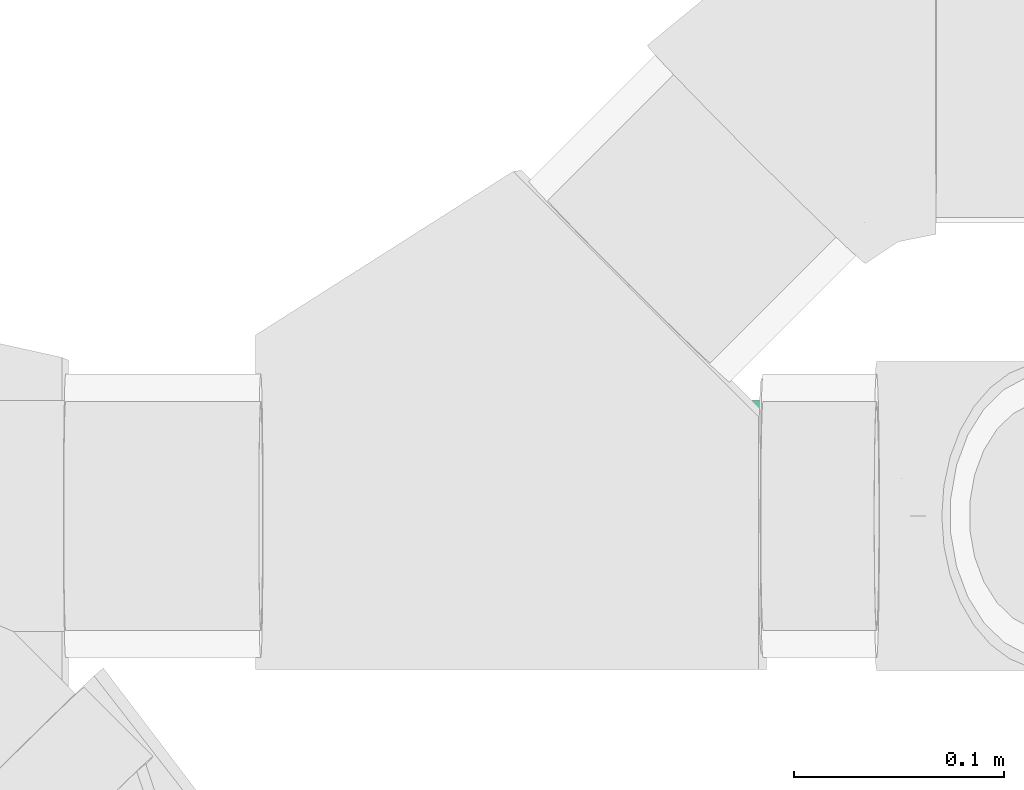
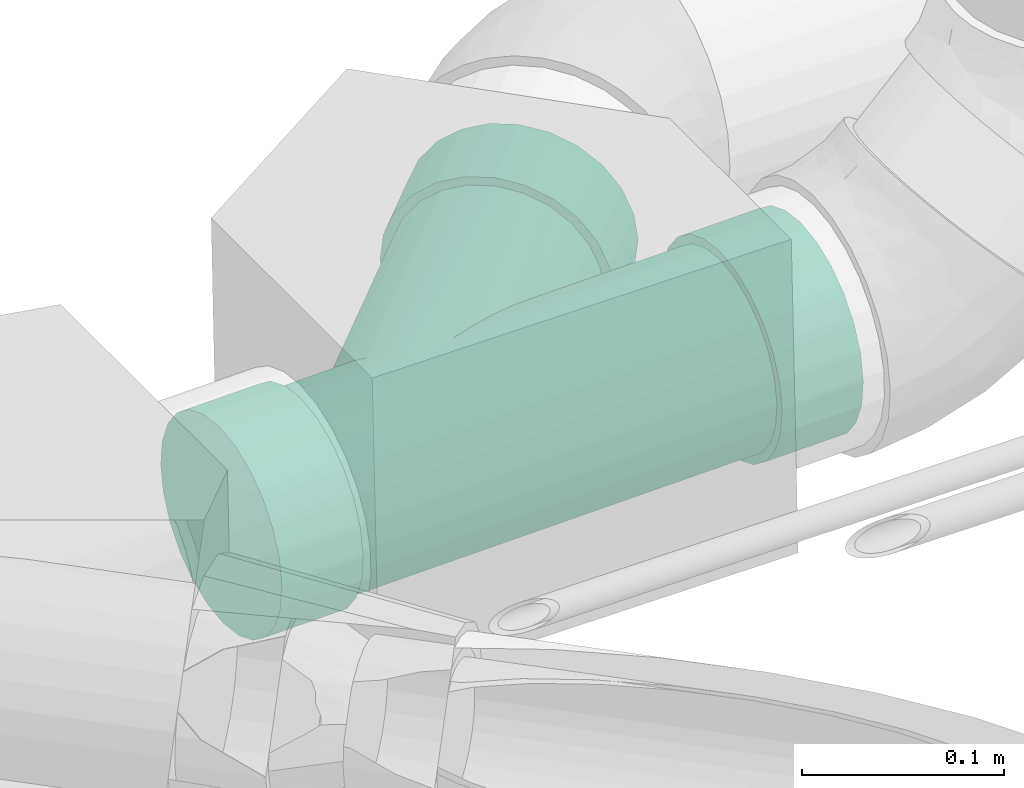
# One storey, part 128 of 156: 1 flow fitting.
"""IFC2X3 building model written with IfcOpenShell, lengths in millimetres."""

from ifc_helpers import new_model, entity, si_unit, converted_unit, derived_unit, direction, frame, origin_with_axes, place, context, subcontext, project, spatial, open_shell, surface_model, source, transform, mapped, type_object, element, save


model = new_model("IFC2X3")

# Units and contexts
model_context = context("Model", 3, precision=0.01, world=frame((0.0, 4.29681676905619e-09, 0.0)), true_north=direction((4.01073788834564e-13, 1.0)))
plan_context = context("Plan", 3, precision=0.01, world=frame((0.0, 4.29681676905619e-09, 0.0)), true_north=direction((4.01073788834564e-13, 1.0)))
body_context = subcontext(model_context, "Body", "Model", "MODEL_VIEW")
ifc_project = project(units=[converted_unit("PLANEANGLEUNIT", "DEGREE", entity("IfcPositiveLengthMeasure", 0.0174532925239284), si_unit("PLANEANGLEUNIT", "RADIAN"), dimensions=[0, 0, 0, 0, 0, 0, 0]), si_unit("AREAUNIT", "SQUARE_METRE"), si_unit("LENGTHUNIT", "METRE", prefix="MILLI"), si_unit("MASSUNIT", "GRAM", prefix="KILO"), si_unit("POWERUNIT", "WATT"), si_unit("PRESSUREUNIT", "PASCAL", prefix="KILO"), si_unit("FORCEUNIT", "NEWTON", prefix="KILO"), si_unit("ELECTRICVOLTAGEUNIT", "VOLT"), si_unit("ELECTRICCURRENTUNIT", "AMPERE"), si_unit("THERMODYNAMICTEMPERATUREUNIT", "DEGREE_CELSIUS"), si_unit("TIMEUNIT", "SECOND"), si_unit("VOLUMEUNIT", "CUBIC_METRE"), derived_unit("LINEARVELOCITYUNIT", [(si_unit("LENGTHUNIT", "METRE"), 1), (si_unit("TIMEUNIT", "SECOND"), -1)]), derived_unit("VOLUMETRICFLOWRATEUNIT", [(si_unit("VOLUMEUNIT", "CUBIC_METRE"), 1), (si_unit("TIMEUNIT", "SECOND"), -1)]), derived_unit("THERMALTRANSMITTANCEUNIT", [(si_unit("POWERUNIT", "WATT"), 1), (si_unit("THERMODYNAMICTEMPERATUREUNIT", "KELVIN"), -1), (si_unit("AREAUNIT", "SQUARE_METRE"), -1)]), derived_unit("SOUNDPRESSUREUNIT", [(si_unit("PRESSUREUNIT", "PASCAL"), 1)])], contexts=[model_context, plan_context])

# Site, building, storey
site_placement = place(None, frame((0.0, -4.29681676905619e-09, 0.0), z_axis=(0.0, 0.0, 1.0), x_axis=(1.0, 0.0, 0.0)))
site = spatial("IfcSite", under=ifc_project, at=site_placement, CompositionType="ELEMENT")
building_placement = place(site_placement, frame((0.0, 4.29681676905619e-09, 0.0), z_axis=(0.0, 0.0, 1.0), x_axis=(1.0, 0.0, 0.0)))
building = spatial("IfcBuilding", under=site, at=building_placement, Name="mc-building", CompositionType="ELEMENT")
storey_placement = place(building_placement, frame((0.0, 0.0, 205200.0), z_axis=(0.0, 0.0, 1.0), x_axis=(1.0, 0.0, 0.0)))
storey = spatial("IfcBuildingStorey", under=building, at=storey_placement, Name="Nivå D + 1,2 m", CompositionType="ELEMENT", Elevation=205200.0)

# Flow fitting
pipe_fitting_type = type_object("IfcPipeFittingType", Name="magi_sewer_tee_wye_NOR", PredefinedType="JUNCTION")
shared_shape = source(origin_with_axes(), body_context, "Body", "SurfaceModel", [
    surface_model("IfcShellBasedSurfaceModel", [(221.98725, 30.0, -51.96152), (221.98725, -42.42641, -42.42641), (221.98725, 15.52914, -57.95555), (221.98725, 51.96152, -30.0), (221.98725, 42.42641, -42.42641), (221.98725, 57.95555, -15.52914), (221.98725, 60.0, 0.0), (221.98725, 0.0, -60.0), (221.98725, -30.0, -51.96152), (221.98725, -15.52914, -57.95555), (221.98725, 57.95555, 15.52914), (221.98725, -51.96152, -30.0), (221.98725, -60.0, 0.0), (221.98725, -57.95555, -15.52914), (221.98725, 51.96152, 30.0), (221.98725, 42.42641, 42.42641), (221.98725, 15.52914, 57.95555), (221.98725, 0.0, 60.0), (221.98725, 30.0, 51.96152), (221.98725, -51.96152, 30.0), (221.98725, -57.95555, 15.52914), (221.98725, -30.0, 51.96152), (221.98725, -42.42641, 42.42641), (221.98725, -15.52914, 57.95555), (175.48724, 42.42641, 42.42641), (175.48724, 0.0, 60.0), (175.48724, 15.52914, 57.95555), (175.48724, 30.0, 51.96152), (175.48724, 51.96152, 30.0), (175.48724, 57.95555, 15.52914), (175.48724, -60.0, 0.0), (175.48724, -30.0, 51.96152), (175.48724, -51.96152, 30.0), (175.48724, -42.42641, 42.42641), (175.48724, -15.52914, 57.95555), (175.48724, -57.95555, 15.52914), (175.48724, -51.96152, -30.0), (175.48724, -42.42641, -42.42641), (175.48724, 57.95555, -15.52914), (175.48724, 42.42641, -42.42641), (175.48724, 51.96152, -30.0), (175.48724, 30.0, -51.96152), (175.48724, 15.52914, -57.95555), (175.48724, -57.95555, -15.52914), (175.48724, -30.0, -51.96152), (175.48724, 0.0, -60.0), (175.48724, -15.52914, -57.95555), (175.48724, 60.0, 0.0), (132.81197, -90.35534, -51.96152), (122.58091, -100.58916, -57.95555), (111.60164, -111.57141, -60.0), (148.33901, -74.82409, -30.0), (152.57684, -70.5851, -15.52914), (141.59757, -81.56735, -42.42641), (70.62643, -152.55773, 15.52914), (81.6057, -141.57548, -42.42641), (90.3913, -132.78749, -51.96152), (100.62236, -122.55367, -57.95555), (74.86427, -148.31874, -30.0), (70.62643, -152.55773, -15.52914), (69.18097, -154.00357, 0.0), (148.33901, -74.82409, 30.0), (152.57684, -70.5851, 15.52914), (154.0223, -69.13926, 0.0), (132.81197, -90.35534, 51.96152), (141.59757, -81.56735, 42.42641), (122.58091, -100.58916, 57.95555), (111.60164, -111.57141, 60.0), (74.86427, -148.31874, 30.0), (81.6057, -141.57548, 42.42641), (90.3913, -132.78749, 51.96152), (100.62236, -122.55367, 57.95555), (181.22393, -107.7001, -30.0), (144.48656, -144.44742, -60.0), (155.46584, -133.46518, -57.95555), (174.4825, -114.44337, -42.42641), (165.69688, -123.23135, -51.96152), (107.74918, -181.19475, -30.0), (185.46177, -103.46112, 15.52914), (102.06589, -186.87958, 0.0), (123.27622, -165.66351, -51.96152), (114.49061, -174.45149, -42.42641), (133.50728, -155.42968, -57.95555), (103.51134, -185.43374, -15.52914), (185.46177, -103.46112, -15.52914), (186.90721, -102.01528, 0.0), (123.27622, -165.66351, 51.96152), (155.46584, -133.46518, 57.95555), (181.22393, -107.7001, 30.0), (165.69688, -123.23135, 51.96152), (174.4825, -114.44337, 42.42641), (144.48656, -144.44742, 60.0), (103.51134, -185.43374, 15.52914), (114.49061, -174.45149, 42.42641), (107.74918, -181.19475, 30.0), (133.50728, -155.42968, 57.95555), (-110.3856, -30.0, -51.96152), (-110.3856, 42.42641, -42.42641), (-110.3856, -15.52914, -57.95555), (-110.3856, -51.96152, -30.0), (-110.3856, -42.42641, -42.42641), (-110.3856, -57.95555, -15.52914), (-110.3856, -60.0, 0.0), (-110.3856, 0.0, -60.0), (-110.3856, 30.0, -51.96152), (-110.3856, 15.52914, -57.95555), (-110.3856, -57.95555, 15.52914), (-110.3856, 51.96152, -30.0), (-110.3856, 60.0, 0.0), (-110.3856, 57.95555, -15.52914), (-110.3856, -51.96152, 30.0), (-110.3856, -42.42641, 42.42641), (-110.3856, -15.52914, 57.95555), (-110.3856, 0.0, 60.0), (-110.3856, -30.0, 51.96152), (-110.3856, 51.96152, 30.0), (-110.3856, 57.95555, 15.52914), (-110.3856, 30.0, 51.96152), (-110.3856, 42.42641, 42.42641), (-110.3856, 15.52914, 57.95555), (-63.88561, -42.42641, 42.42641), (-63.88561, 0.0, 60.0), (-63.88561, -15.52914, 57.95555), (-63.88561, -30.0, 51.96152), (-63.88561, -51.96152, 30.0), (-63.88561, -57.95555, 15.52914), (-63.88561, 60.0, 0.0), (-63.88561, 30.0, 51.96152), (-63.88561, 51.96152, 30.0), (-63.88561, 42.42641, 42.42641), (-63.88561, 15.52914, 57.95555), (-63.88561, 57.95555, 15.52914), (-63.88561, 51.96152, -30.0), (-63.88561, 42.42641, -42.42641), (-63.88561, -57.95555, -15.52914), (-63.88561, -42.42641, -42.42641), (-63.88561, -51.96152, -30.0), (-63.88561, -30.0, -51.96152), (-63.88561, -15.52914, -57.95555), (-63.88561, 57.95555, -15.52914), (-63.88561, 30.0, -51.96152), (-63.88561, 0.0, -60.0), (-63.88561, 15.52914, -57.95555), (-63.88561, -60.0, 0.0), (175.48724, 27.5, -47.63139), (175.48724, 0.0, -55.0), (175.48724, 14.23505, -53.12592), (175.48724, 47.63139, -27.5), (175.48724, 38.89087, -38.89087), (175.48724, -55.0, 0.0), (175.48724, -27.5, -47.63139), (175.48724, 53.12592, -14.23505), (175.48724, -14.23505, -53.12592), (175.48724, -47.63139, -27.5), (175.48724, -38.89087, -38.89087), (175.48724, -53.12592, -14.23505), (175.48724, -47.63139, 27.5), (175.48724, 55.0, 0.0), (175.48724, 47.63139, 27.5), (175.48724, 27.5, 47.63139), (175.48724, 38.89087, 38.89087), (175.48724, 14.23505, 53.12592), (175.48724, 0.0, 55.0), (175.48724, -53.12592, 14.23505), (175.48724, -27.5, 47.63139), (175.48724, -38.89087, 38.89087), (175.48724, -14.23505, 53.12592), (175.48724, 53.12592, 14.23505), (-63.88561, 0.0, 55.0), (-63.88561, 14.23505, 53.12592), (-63.88561, 27.5, 47.63139), (-63.88561, -47.63139, 27.5), (-63.88561, 27.5, -47.63139), (-63.88561, 47.63139, 27.5), (-63.88561, 38.89087, 38.89087), (-63.88561, -27.5, 47.63139), (-63.88561, -14.23505, 53.12592), (-63.88561, -38.89087, 38.89087), (-63.88561, -55.0, 0.0), (-63.88561, -53.12592, 14.23505), (-63.88561, -47.63139, -27.5), (-63.88561, 53.12592, -14.23505), (-63.88561, 53.12592, 14.23505), (-63.88561, 47.63139, -27.5), (-63.88561, -27.5, -47.63139), (-63.88561, 38.89087, -38.89087), (-63.88561, 0.0, -55.0), (-63.88561, 14.23505, -53.12592), (-63.88561, -38.89087, -38.89087), (-63.88561, -53.12592, -14.23505), (-63.88561, -14.23505, -53.12592), (-63.88561, 55.0, 0.0), (-21.84946, -52.75937, -14.7243), (-63.88561, -53.59444, -10.67629), (-20.40782, -49.27827, -23.92693), (-63.88561, -50.37866, -20.86752), (-63.88561, -49.00503, -24.18376), (-63.88561, -54.53148, -3.55876), (-63.88561, -54.06296, -7.11752), (-22.58974, -54.54691, -4.97137), (-22.40211, -54.09383, -9.94273), (-63.88561, -20.86752, -50.37866), (-7.52145, -18.16186, -51.9148), (-9.28592, -22.4225, -50.00428), (-19.51883, -47.13164, -28.34798), (-17.15195, -41.41639, -36.18954), (-63.88561, -43.26114, -33.19544), (-63.88561, -33.19544, -43.26114), (-11.0504, -26.68313, -48.09377), (130.23049, -53.9329, -7.58627), (175.48724, -54.06296, -7.11752), (-18.33539, -44.27402, -32.26876), (-15.7233, -37.96668, -39.50493), (-14.29465, -34.51696, -42.82032), (-21.29682, -51.42491, -19.50587), (-3.80641, -9.19126, -54.22657), (-63.88561, -7.11752, -54.06296), (-22.77738, -55.0, 0.0), (127.6538, -52.86581, -15.17255), (116.61219, -48.2931, -26.32065), (132.80718, -55.0, 0.0), (103.48427, -42.85638, -34.47217), (175.48724, -43.26114, -33.19544), (74.97336, -31.04904, -45.39777), (60.20855, -24.93442, -49.02321), (89.46378, -37.05001, -40.64845), (0.0, 0.0, -55.0), (30.23405, -12.52096, -53.55582), (15.13132, -6.2664, -54.64185), (45.27504, -18.74994, -51.70532), (-63.88561, -50.37866, 20.86752), (-21.29682, -51.42491, 19.50587), (-20.40782, -49.27827, 23.92693), (-22.58974, -54.54691, 4.97137), (-63.88561, -54.06296, 7.11752), (-63.88561, -54.53148, 3.55876), (-63.88561, -7.11752, 54.06296), (-3.80641, -9.19126, 54.22657), (0.0, 0.0, 55.0), (-7.52145, -18.16186, 51.9148), (-63.88561, -20.86752, 50.37866), (-11.0504, -26.68313, 48.09377), (-9.28592, -22.4225, 50.00428), (30.23405, -12.52096, 53.55582), (60.20855, -24.93442, 49.02321), (-63.88561, -33.19544, 43.26114), (-14.29465, -34.51696, 42.82032), (-19.51883, -47.13164, 28.34798), (-18.33539, -44.27402, 32.26876), (-63.88561, -43.26114, 33.19544), (-17.15195, -41.41639, 36.18954), (89.46378, -37.05001, 40.64845), (103.03798, -42.67156, 33.48455), (-15.7233, -37.96668, 39.50493), (-63.88561, -49.00503, 24.18376), (175.48724, -43.26114, 33.19544), (-21.84946, -52.75937, 14.7243), (-22.40211, -54.09383, 9.94273), (116.61219, -48.2931, 26.32065), (124.70968, -51.64655, 13.16033), (-63.88561, -53.59444, 10.67629), (139.09791, -84.06769, -38.89087), (111.60164, -111.57141, -55.0), (121.66597, -101.50435, -53.12592), (131.04444, -92.12335, -47.63139), (145.27756, -77.88637, 27.5), (72.71603, -150.46755, 0.0), (145.27756, -77.88637, -27.5), (150.48724, -72.67527, 0.0), (92.15884, -131.01948, -47.63139), (77.92571, -145.25646, -27.5), (84.10536, -139.07514, -38.89087), (101.5373, -121.63848, -53.12592), (74.04102, -149.1422, -14.23505), (149.16225, -74.00063, -14.23505), (149.16225, -74.00063, 14.23505), (131.04444, -92.12335, 47.63139), (74.04102, -149.1422, 14.23505), (139.09791, -84.06769, 38.89087), (121.66597, -101.50435, 53.12592), (77.92571, -145.25646, 27.5), (92.15884, -131.01948, 47.63139), (84.10536, -139.07514, 38.89087), (111.60164, -111.57141, 55.0), (101.5373, -121.63848, 53.12592), (149.82475, -73.33795, -7.11752), (142.18773, -80.97703, -33.19544)], [open_shell([[[0, 1, 2]], [[3, 0, 4]], [[5, 6, 0]], [[5, 0, 3]], [[1, 0, 6]], [[7, 8, 9]], [[8, 7, 1]], [[2, 1, 7]], [[1, 10, 11]], [[11, 12, 13]], [[10, 1, 6]], [[10, 14, 15]], [[12, 10, 15]], [[16, 17, 15]], [[16, 15, 18]], [[19, 15, 17]], [[12, 19, 20]], [[12, 15, 19]], [[19, 21, 22]], [[19, 17, 21]], [[23, 21, 17]], [[10, 12, 11]], [[24, 25, 26]], [[24, 26, 27]], [[24, 28, 29]], [[25, 24, 30]], [[30, 24, 29]], [[31, 32, 33]], [[31, 34, 25]], [[32, 30, 35]], [[31, 25, 32]], [[25, 30, 32]], [[29, 36, 30]], [[37, 29, 38]], [[39, 38, 40]], [[41, 42, 38]], [[41, 38, 39]], [[37, 38, 42]], [[37, 36, 29]], [[43, 30, 36]], [[44, 45, 46]], [[45, 44, 37]], [[45, 37, 42]], [[47, 38, 29]], [[43, 13, 30]], [[36, 11, 43]], [[8, 37, 44]], [[36, 37, 1]], [[9, 44, 46]], [[43, 11, 13]], [[13, 12, 30]], [[9, 8, 44]], [[1, 37, 8]], [[1, 11, 36]], [[7, 9, 46]], [[46, 45, 7]], [[2, 42, 41]], [[39, 0, 41]], [[3, 40, 38]], [[39, 40, 4]], [[5, 38, 47]], [[42, 2, 45]], [[41, 0, 2]], [[45, 2, 7]], [[39, 4, 0]], [[40, 3, 4]], [[5, 3, 38]], [[47, 6, 5]], [[29, 10, 47]], [[28, 14, 29]], [[18, 24, 27]], [[28, 24, 15]], [[16, 27, 26]], [[29, 14, 10]], [[10, 6, 47]], [[18, 27, 16]], [[15, 24, 18]], [[15, 14, 28]], [[16, 25, 17]], [[16, 26, 25]], [[23, 34, 31]], [[33, 21, 31]], [[19, 32, 35]], [[33, 32, 22]], [[20, 35, 30]], [[34, 23, 25]], [[31, 21, 23]], [[25, 23, 17]], [[33, 22, 21]], [[32, 19, 22]], [[20, 19, 35]], [[30, 12, 20]], [[48, 49, 50]], [[51, 48, 50]], [[50, 52, 51]], [[53, 48, 51]], [[54, 50, 55]], [[56, 55, 57]], [[55, 50, 57]], [[58, 59, 55]], [[59, 54, 55]], [[60, 54, 59]], [[50, 54, 52]], [[61, 62, 63]], [[54, 61, 52]], [[64, 61, 54]], [[65, 61, 64]], [[66, 64, 67]], [[68, 69, 54]], [[70, 54, 69]], [[70, 71, 54]], [[71, 64, 54]], [[71, 67, 64]], [[63, 52, 61]], [[72, 73, 74]], [[75, 74, 76]], [[73, 72, 77]], [[72, 74, 75]], [[78, 79, 72]], [[80, 77, 81]], [[80, 82, 73]], [[72, 83, 77]], [[77, 80, 73]], [[83, 72, 79]], [[72, 84, 85]], [[79, 78, 86]], [[87, 78, 88]], [[89, 87, 88]], [[89, 88, 90]], [[91, 78, 87]], [[92, 93, 94]], [[93, 92, 86]], [[86, 91, 95]], [[92, 79, 86]], [[78, 91, 86]], [[78, 72, 85]], [[92, 60, 79]], [[94, 54, 92]], [[69, 93, 86]], [[94, 93, 68]], [[70, 86, 95]], [[94, 68, 54]], [[54, 60, 92]], [[71, 91, 67]], [[71, 70, 95]], [[69, 86, 70]], [[69, 68, 93]], [[91, 71, 95]], [[64, 87, 89]], [[90, 65, 89]], [[62, 88, 78]], [[90, 88, 61]], [[63, 78, 85]], [[87, 66, 67]], [[87, 64, 66]], [[89, 65, 64]], [[90, 61, 65]], [[62, 61, 88]], [[78, 63, 62]], [[87, 67, 91]], [[84, 63, 85]], [[72, 52, 84]], [[53, 75, 76]], [[72, 75, 51]], [[48, 76, 74]], [[72, 51, 52]], [[52, 63, 84]], [[49, 73, 50]], [[49, 48, 74]], [[53, 76, 48]], [[53, 51, 75]], [[73, 49, 74]], [[56, 82, 80]], [[81, 55, 80]], [[59, 77, 83]], [[81, 77, 58]], [[60, 83, 79]], [[57, 50, 82]], [[57, 82, 56]], [[80, 55, 56]], [[81, 58, 55]], [[59, 58, 77]], [[83, 60, 59]], [[82, 50, 73]], [[96, 97, 98]], [[99, 96, 100]], [[101, 102, 96]], [[101, 96, 99]], [[97, 96, 102]], [[103, 104, 105]], [[104, 103, 97]], [[98, 97, 103]], [[97, 106, 107]], [[107, 108, 109]], [[106, 97, 102]], [[106, 110, 111]], [[108, 106, 111]], [[112, 113, 111]], [[112, 111, 114]], [[115, 111, 113]], [[108, 115, 116]], [[108, 111, 115]], [[115, 117, 118]], [[115, 113, 117]], [[119, 117, 113]], [[106, 108, 107]], [[120, 121, 122]], [[120, 122, 123]], [[120, 124, 125]], [[121, 120, 126]], [[126, 120, 125]], [[127, 128, 129]], [[127, 130, 121]], [[128, 126, 131]], [[127, 121, 128]], [[121, 126, 128]], [[125, 132, 126]], [[133, 125, 134]], [[135, 134, 136]], [[137, 138, 134]], [[137, 134, 135]], [[133, 134, 138]], [[133, 132, 125]], [[139, 126, 132]], [[140, 141, 142]], [[141, 140, 133]], [[141, 133, 138]], [[143, 134, 125]], [[139, 109, 126]], [[132, 107, 139]], [[104, 133, 140]], [[132, 133, 97]], [[105, 140, 142]], [[139, 107, 109]], [[109, 108, 126]], [[105, 104, 140]], [[97, 133, 104]], [[97, 107, 132]], [[103, 105, 142]], [[142, 141, 103]], [[98, 138, 137]], [[135, 96, 137]], [[99, 136, 134]], [[135, 136, 100]], [[101, 134, 143]], [[138, 98, 141]], [[137, 96, 98]], [[141, 98, 103]], [[135, 100, 96]], [[136, 99, 100]], [[101, 99, 134]], [[143, 102, 101]], [[125, 106, 143]], [[124, 110, 125]], [[114, 120, 123]], [[124, 120, 111]], [[112, 123, 122]], [[125, 110, 106]], [[106, 102, 143]], [[114, 123, 112]], [[111, 120, 114]], [[111, 110, 124]], [[112, 121, 113]], [[112, 122, 121]], [[119, 130, 127]], [[129, 117, 127]], [[115, 128, 131]], [[129, 128, 118]], [[116, 131, 126]], [[130, 119, 121]], [[127, 117, 119]], [[121, 119, 113]], [[129, 118, 117]], [[128, 115, 118]], [[116, 115, 131]], [[126, 108, 116]], [[144, 145, 146]], [[147, 144, 148]], [[149, 150, 144]], [[151, 144, 147]], [[144, 151, 149]], [[145, 150, 152]], [[145, 144, 150]], [[150, 153, 154]], [[153, 150, 149]], [[149, 155, 153]], [[156, 151, 157]], [[156, 157, 158]], [[159, 158, 160]], [[159, 161, 162]], [[158, 159, 156]], [[162, 156, 159]], [[149, 156, 163]], [[151, 156, 149]], [[162, 164, 165]], [[165, 156, 162]], [[164, 162, 166]], [[157, 167, 158]], [[168, 169, 170]], [[171, 168, 170]], [[172, 171, 170]], [[173, 170, 174]], [[173, 172, 170]], [[168, 175, 176]], [[168, 177, 175]], [[171, 178, 179]], [[177, 168, 171]], [[171, 180, 178]], [[181, 173, 182]], [[181, 183, 173]], [[173, 183, 172]], [[171, 172, 184]], [[172, 183, 185]], [[186, 172, 187]], [[180, 184, 188]], [[189, 178, 180]], [[184, 186, 190]], [[180, 171, 184]], [[186, 184, 172]], [[182, 191, 181]], [[189, 192, 193]], [[194, 195, 196]], [[197, 198, 199]], [[200, 193, 192]], [[201, 202, 203]], [[204, 194, 180]], [[205, 206, 188]], [[207, 184, 208]], [[209, 155, 210]], [[180, 206, 211]], [[212, 205, 188]], [[180, 194, 196]], [[208, 213, 207]], [[194, 214, 195]], [[215, 190, 216]], [[206, 205, 211]], [[217, 197, 199]], [[218, 219, 153]], [[209, 218, 155]], [[210, 220, 209]], [[155, 218, 153]], [[221, 222, 219]], [[184, 203, 208]], [[200, 198, 193]], [[150, 223, 224]], [[225, 223, 150]], [[225, 154, 221]], [[154, 225, 150]], [[222, 153, 219]], [[180, 211, 204]], [[198, 200, 199]], [[213, 188, 207]], [[203, 184, 201]], [[186, 226, 216]], [[188, 213, 212]], [[215, 202, 190]], [[215, 216, 226]], [[221, 154, 222]], [[186, 187, 226]], [[214, 189, 195]], [[148, 185, 183]], [[147, 183, 181]], [[146, 187, 172]], [[144, 172, 185]], [[146, 226, 187]], [[151, 181, 191]], [[189, 214, 192]], [[197, 217, 178]], [[227, 228, 152]], [[229, 227, 152]], [[229, 152, 224]], [[152, 228, 145]], [[224, 152, 150]], [[226, 145, 228]], [[220, 210, 149]], [[146, 145, 226]], [[144, 146, 172]], [[144, 185, 148]], [[147, 148, 183]], [[151, 147, 181]], [[191, 157, 151]], [[202, 201, 190]], [[174, 158, 173]], [[230, 231, 232]], [[233, 234, 235]], [[173, 158, 182]], [[167, 191, 182]], [[160, 174, 170]], [[236, 176, 237]], [[169, 168, 238]], [[237, 176, 239]], [[239, 176, 240]], [[170, 169, 159]], [[241, 242, 175]], [[236, 238, 168]], [[175, 242, 240]], [[160, 158, 174]], [[217, 235, 178]], [[159, 160, 170]], [[167, 182, 158]], [[157, 191, 167]], [[238, 236, 237]], [[238, 243, 162]], [[238, 162, 161]], [[162, 243, 166]], [[166, 243, 244]], [[161, 159, 169]], [[238, 161, 169]], [[241, 245, 246]], [[247, 248, 171]], [[245, 177, 246]], [[249, 248, 250]], [[165, 251, 252]], [[246, 177, 253]], [[232, 254, 230]], [[233, 235, 217]], [[252, 156, 255]], [[256, 231, 179]], [[257, 234, 233]], [[163, 258, 259]], [[232, 171, 254]], [[179, 231, 230]], [[171, 248, 249]], [[171, 232, 247]], [[241, 175, 245]], [[244, 251, 164]], [[257, 260, 234]], [[164, 251, 165]], [[244, 164, 166]], [[260, 256, 179]], [[250, 177, 249]], [[165, 252, 255]], [[156, 252, 258]], [[177, 250, 253]], [[256, 260, 257]], [[258, 163, 156]], [[259, 149, 163]], [[259, 220, 149]], [[239, 240, 242]], [[261, 262, 263]], [[261, 263, 264]], [[261, 265, 262]], [[262, 265, 266]], [[267, 268, 261]], [[269, 270, 271]], [[269, 272, 262]], [[270, 266, 273]], [[266, 270, 269]], [[262, 266, 269]], [[267, 274, 268]], [[275, 265, 261]], [[266, 265, 276]], [[276, 277, 266]], [[276, 265, 278]], [[279, 277, 276]], [[280, 281, 282]], [[280, 277, 279]], [[281, 283, 284]], [[283, 281, 280]], [[279, 283, 280]], [[275, 261, 268]], [[257, 217, 266]], [[277, 257, 266]], [[282, 281, 246]], [[250, 280, 282]], [[231, 277, 280]], [[239, 281, 284]], [[231, 257, 277]], [[247, 231, 280]], [[246, 250, 282]], [[239, 241, 281]], [[246, 281, 241]], [[247, 280, 250]], [[268, 259, 275]], [[284, 237, 239]], [[243, 283, 279]], [[276, 244, 279]], [[265, 275, 258]], [[258, 278, 265]], [[251, 276, 278]], [[259, 268, 220]], [[283, 238, 237]], [[283, 243, 238]], [[259, 258, 275]], [[243, 279, 244]], [[258, 251, 278]], [[276, 251, 244]], [[283, 237, 284]], [[274, 209, 285]], [[219, 286, 221]], [[268, 285, 220]], [[274, 267, 218]], [[261, 264, 225]], [[221, 286, 261]], [[218, 267, 219]], [[224, 264, 263]], [[219, 267, 286]], [[223, 225, 264]], [[221, 261, 225]], [[229, 224, 263]], [[262, 228, 227]], [[229, 263, 227]], [[223, 264, 224]], [[274, 218, 209]], [[227, 263, 262]], [[269, 202, 272]], [[272, 215, 262]], [[213, 269, 271]], [[200, 273, 266]], [[271, 270, 205]], [[273, 214, 270]], [[266, 217, 200]], [[208, 202, 269]], [[215, 226, 262]], [[202, 215, 272]], [[220, 285, 209]], [[200, 214, 273]], [[205, 213, 271]], [[204, 205, 270]], [[214, 204, 270]], [[208, 269, 213]], [[262, 226, 228]]])]),
])
flow_fitting_placement = place(storey_placement, frame((328157.06183, 462607.66, 4222.67939999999), z_axis=(0.0209459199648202, 0.00261900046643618, -0.999777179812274), x_axis=(0.999780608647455, 0.0, 0.020945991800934)))
element("IfcFlowFitting", 1, at=flow_fitting_placement, inside=storey, type_object=pipe_fitting_type, Name="magi_sewer_tee_wye_NOR", context=body_context, shape_type="MappedRepresentation", body=[
    mapped(shared_shape, transform((0.0, 0.0, 0.0), scale=1.0)),
])

save(model, "model.ifc")
